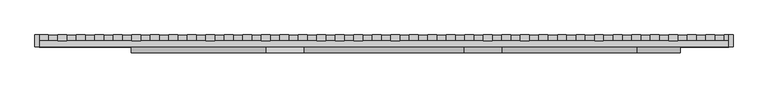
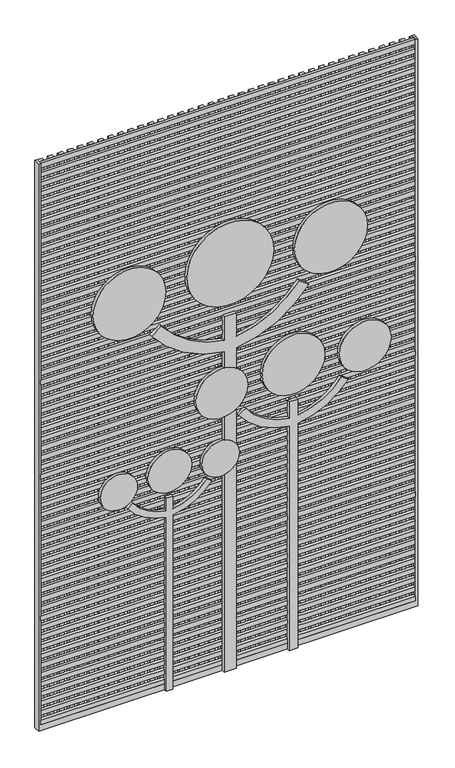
"""IFC4 building model written with IfcOpenShell, lengths in millimetres: proxy geometry, Modelos genéricos - (reduzido) PAINEL CMP (ARAUCÁRIA) - (reduzido) PAINEL CMP (ARAUCÁRIA)."""

from ifc_helpers import new_model, si_unit, point, frame, frame_2d, origin, place, context, project, spatial, polyline, circle_curve, trimmed, segment, composite_curve, outline, extrude, source, transform, mapped, element, save


def generic_models_fbd47416(model_context):
    return source(origin(), model_context, "Body", "SweptSolid", [
        extrude(outline(polyline([(-3085.9835097, -20.0), (-3085.9835097, 0.0), (-775.2251095, 0.0), (-775.2251095, -20.0), (-3085.9835097, -20.0)])), frame((0.0, 0.0, 2254.0784733), z_axis=(0.0, 0.0, 1.0), x_axis=(1.0, 0.0, 0.0)), (0.0, 0.0, 1.0), 30.0),
        extrude(outline(composite_curve([segment(trimmed(circle_curve(frame_2d((2653.9607383, -1930.0)), 268.0), [point((2653.9607383, -1662.0))], [point((2653.9607383, -2198.0))], False, "CARTESIAN"), True, "CONTINUOUS"), segment(trimmed(circle_curve(frame_2d((2653.9607383, -1930.0)), 268.0), [point((2653.9607383, -2198.0))], [point((2653.9607383, -1662.0))], False, "CARTESIAN"), True, "CONTINUOUS")], self_intersect=False)), frame((0.0, -40.0, 0.0), z_axis=(0.0, 1.0, 0.0), x_axis=(0.0, 0.0, 1.0)), (0.0, 0.0, 1.0), 20.0),
        extrude(outline(polyline([(-3085.9835097, -20.0), (-3085.9835097, 0.0), (-775.2251095, 0.0), (-775.2251095, -20.0), (-3085.9835097, -20.0)])), frame((0.0, 0.0, 1638.4604183), z_axis=(0.0, 0.0, 1.0), x_axis=(1.0, 0.0, 0.0)), (0.0, 0.0, 1.0), 30.0),
        extrude(outline(polyline([(-2093.0828076, 0.0), (-2093.0828076, 20.0), (-2063.0828076, 20.0), (-2063.0828076, 0.0), (-2093.0828076, 0.0)])), frame((0.0, 0.0, 37.8534751), z_axis=(0.0, 0.0, 1.0), x_axis=(1.0, 0.0, 0.0)), (0.0, 0.0, 1.0), 3662.1465249),
        extrude(outline(polyline([(-2527.4768647, 0.0), (-2527.4768647, 20.0), (-2497.4768647, 20.0), (-2497.4768647, 0.0), (-2527.4768647, 0.0)])), frame((0.0, 0.0, 37.8534751), z_axis=(0.0, 0.0, 1.0), x_axis=(1.0, 0.0, 0.0)), (0.0, 0.0, 1.0), 3662.1465249),
        extrude(outline(polyline([(-3085.9835097, -20.0), (-3085.9835097, 0.0), (-775.2251095, 0.0), (-775.2251095, -20.0), (-3085.9835097, -20.0)])), frame((0.0, 0.0, 715.0333356), z_axis=(0.0, 0.0, 1.0), x_axis=(1.0, 0.0, 0.0)), (0.0, 0.0, 1.0), 30.0),
        extrude(outline(polyline([(-3085.9835097, -20.0), (-3085.9835097, 0.0), (-775.2251095, 0.0), (-775.2251095, -20.0), (-3085.9835097, -20.0)])), frame((0.0, 0.0, 37.8534751), z_axis=(0.0, 0.0, 1.0), x_axis=(1.0, 0.0, 0.0)), (0.0, 0.0, 1.0), 30.0),
        extrude(outline(polyline([(0.0, -3100.0), (0.0, -760.0), (3700.0, -760.0), (3700.0, -775.2251095), (37.8534751, -775.2251095), (37.8534751, -3085.9835097), (3700.0, -3085.9835097), (3700.0, -3100.0), (0.0, -3100.0)])), frame((0.0, -20.0, 0.0), z_axis=(0.0, 1.0, 0.0), x_axis=(0.0, 0.0, 1.0)), (0.0, 0.0, 1.0), 40.0),
        extrude(outline(polyline([(-3085.9835097, -20.0), (-3085.9835097, 0.0), (-775.2251095, 0.0), (-775.2251095, -20.0), (-3085.9835097, -20.0)])), frame((0.0, 0.0, 1823.1458348), z_axis=(0.0, 0.0, 1.0), x_axis=(1.0, 0.0, 0.0)), (0.0, 0.0, 1.0), 30.0),
        extrude(outline(polyline([(-3085.9835097, -20.0), (-3085.9835097, 0.0), (-775.2251095, 0.0), (-775.2251095, -20.0), (-3085.9835097, -20.0)])), frame((0.0, 0.0, 3115.9437504), z_axis=(0.0, 0.0, 1.0), x_axis=(1.0, 0.0, 0.0)), (0.0, 0.0, 1.0), 30.0),
        extrude(outline(polyline([(-3085.9835097, -20.0), (-3085.9835097, 0.0), (-775.2251095, 0.0), (-775.2251095, -20.0), (-3085.9835097, -20.0)])), frame((0.0, 0.0, 1453.7750017), z_axis=(0.0, 0.0, 1.0), x_axis=(1.0, 0.0, 0.0)), (0.0, 0.0, 1.0), 30.0),
        extrude(outline(polyline([(-3085.9835097, -20.0), (-3085.9835097, 0.0), (-775.2251095, 0.0), (-775.2251095, -20.0), (-3085.9835097, -20.0)])), frame((0.0, 0.0, 838.1569467), z_axis=(0.0, 0.0, 1.0), x_axis=(1.0, 0.0, 0.0)), (0.0, 0.0, 1.0), 30.0),
        extrude(outline(polyline([(-3023.9272158, 0.0), (-3023.9272158, 20.0), (-2993.9272158, 20.0), (-2993.9272158, 0.0), (-3023.9272158, 0.0)])), frame((0.0, 0.0, 37.8534751), z_axis=(0.0, 0.0, 1.0), x_axis=(1.0, 0.0, 0.0)), (0.0, 0.0, 1.0), 3662.1465249),
        extrude(outline(polyline([(-3085.9835097, -20.0), (-3085.9835097, 0.0), (-775.2251095, 0.0), (-775.2251095, -20.0), (-3085.9835097, -20.0)])), frame((0.0, 0.0, 2438.7638899), z_axis=(0.0, 0.0, 1.0), x_axis=(1.0, 0.0, 0.0)), (0.0, 0.0, 1.0), 30.0),
        extrude(outline(polyline([(-3085.9835097, -20.0), (-3085.9835097, 0.0), (-775.2251095, 0.0), (-775.2251095, -20.0), (-3085.9835097, -20.0)])), frame((0.0, 0.0, 1330.6513907), z_axis=(0.0, 0.0, 1.0), x_axis=(1.0, 0.0, 0.0)), (0.0, 0.0, 1.0), 30.0),
        extrude(outline(polyline([(-2341.3079831, 0.0), (-2341.3079831, 20.0), (-2311.3079831, 20.0), (-2311.3079831, 0.0), (-2341.3079831, 0.0)])), frame((0.0, 0.0, 37.8534751), z_axis=(0.0, 0.0, 1.0), x_axis=(1.0, 0.0, 0.0)), (0.0, 0.0, 1.0), 3662.1465249),
        extrude(outline(polyline([(-1596.6324565, 0.0), (-1596.6324565, 20.0), (-1566.6324565, 20.0), (-1566.6324565, 0.0), (-1596.6324565, 0.0)])), frame((0.0, 0.0, 37.8534751), z_axis=(0.0, 0.0, 1.0), x_axis=(1.0, 0.0, 0.0)), (0.0, 0.0, 1.0), 3662.1465249),
        extrude(outline(polyline([(-2031.0265137, 0.0), (-2031.0265137, 20.0), (-2001.0265137, 20.0), (-2001.0265137, 0.0), (-2031.0265137, 0.0)])), frame((0.0, 0.0, 37.8534751), z_axis=(0.0, 0.0, 1.0), x_axis=(1.0, 0.0, 0.0)), (0.0, 0.0, 1.0), 3662.1465249),
        extrude(outline(polyline([(-1472.5198688, 0.0), (-1472.5198688, 20.0), (-1442.5198688, 20.0), (-1442.5198688, 0.0), (-1472.5198688, 0.0)])), frame((0.0, 0.0, 37.8534751), z_axis=(0.0, 0.0, 1.0), x_axis=(1.0, 0.0, 0.0)), (0.0, 0.0, 1.0), 3662.1465249),
        extrude(outline(polyline([(-1224.2946932, 0.0), (-1224.2946932, 20.0), (-1194.2946932, 20.0), (-1194.2946932, 0.0), (-1224.2946932, 0.0)])), frame((0.0, 0.0, 37.8534751), z_axis=(0.0, 0.0, 1.0), x_axis=(1.0, 0.0, 0.0)), (0.0, 0.0, 1.0), 3662.1465249),
        extrude(outline(polyline([(-976.0695177, 0.0), (-976.0695177, 20.0), (-946.0695177, 20.0), (-946.0695177, 0.0), (-976.0695177, 0.0)])), frame((0.0, 0.0, 37.8534751), z_axis=(0.0, 0.0, 1.0), x_axis=(1.0, 0.0, 0.0)), (0.0, 0.0, 1.0), 3662.1465249),
        extrude(outline(polyline([(-3085.9835097, -20.0), (-3085.9835097, 0.0), (-775.2251095, 0.0), (-775.2251095, -20.0), (-3085.9835097, -20.0)])), frame((0.0, 0.0, 160.9770861), z_axis=(0.0, 0.0, 1.0), x_axis=(1.0, 0.0, 0.0)), (0.0, 0.0, 1.0), 30.0),
        extrude(outline(polyline([(-1906.9139259, 0.0), (-1906.9139259, 20.0), (-1876.9139259, 20.0), (-1876.9139259, 0.0), (-1906.9139259, 0.0)])), frame((0.0, 0.0, 37.8534751), z_axis=(0.0, 0.0, 1.0), x_axis=(1.0, 0.0, 0.0)), (0.0, 0.0, 1.0), 3662.1465249),
        extrude(outline(polyline([(-3085.9835097, -20.0), (-3085.9835097, 0.0), (-775.2251095, 0.0), (-775.2251095, -20.0), (-3085.9835097, -20.0)])), frame((0.0, 0.0, 2931.2583339), z_axis=(0.0, 0.0, 1.0), x_axis=(1.0, 0.0, 0.0)), (0.0, 0.0, 1.0), 30.0),
        extrude(outline(polyline([(-2155.1391015, 0.0), (-2155.1391015, 20.0), (-2125.1391015, 20.0), (-2125.1391015, 0.0), (-2155.1391015, 0.0)])), frame((0.0, 0.0, 37.8534751), z_axis=(0.0, 0.0, 1.0), x_axis=(1.0, 0.0, 0.0)), (0.0, 0.0, 1.0), 3662.1465249),
        extrude(outline(polyline([(-2775.7020403, 0.0), (-2775.7020403, 20.0), (-2745.7020403, 20.0), (-2745.7020403, 0.0), (-2775.7020403, 0.0)])), frame((0.0, 0.0, 37.8534751), z_axis=(0.0, 0.0, 1.0), x_axis=(1.0, 0.0, 0.0)), (0.0, 0.0, 1.0), 3662.1465249),
        extrude(outline(polyline([(-3085.9835097, -20.0), (-3085.9835097, 0.0), (-775.2251095, 0.0), (-775.2251095, -20.0), (-3085.9835097, -20.0)])), frame((0.0, 0.0, 3670.0), z_axis=(0.0, 0.0, 1.0), x_axis=(1.0, 0.0, 0.0)), (0.0, 0.0, 1.0), 30.0),
        extrude(outline(polyline([(-2837.7583342, 0.0), (-2837.7583342, 20.0), (-2807.7583342, 20.0), (-2807.7583342, 0.0), (-2837.7583342, 0.0)])), frame((0.0, 0.0, 37.8534751), z_axis=(0.0, 0.0, 1.0), x_axis=(1.0, 0.0, 0.0)), (0.0, 0.0, 1.0), 3662.1465249),
        extrude(outline(polyline([(-3085.9835097, -20.0), (-3085.9835097, 0.0), (-775.2251095, 0.0), (-775.2251095, -20.0), (-3085.9835097, -20.0)])), frame((0.0, 0.0, 1946.2694458), z_axis=(0.0, 0.0, 1.0), x_axis=(1.0, 0.0, 0.0)), (0.0, 0.0, 1.0), 30.0),
        extrude(outline(polyline([(-3085.9835097, -20.0), (-3085.9835097, 0.0), (-775.2251095, 0.0), (-775.2251095, -20.0), (-3085.9835097, -20.0)])), frame((0.0, 0.0, 2623.4493064), z_axis=(0.0, 0.0, 1.0), x_axis=(1.0, 0.0, 0.0)), (0.0, 0.0, 1.0), 30.0),
        extrude(outline(polyline([(-3085.9835097, -20.0), (-3085.9835097, 0.0), (-775.2251095, 0.0), (-775.2251095, -20.0), (-3085.9835097, -20.0)])), frame((0.0, 0.0, 1761.5840293), z_axis=(0.0, 0.0, 1.0), x_axis=(1.0, 0.0, 0.0)), (0.0, 0.0, 1.0), 30.0),
        extrude(outline(composite_curve([segment(trimmed(circle_curve(frame_2d((1826.0455944, -1981.666724)), 160.0), [point((1826.0455944, -1821.666724))], [point((1826.0455944, -2141.666724))], False, "CARTESIAN"), True, "CONTINUOUS"), segment(trimmed(circle_curve(frame_2d((1826.0455944, -1981.666724)), 160.0), [point((1826.0455944, -2141.666724))], [point((1826.0455944, -1821.666724))], False, "CARTESIAN"), True, "CONTINUOUS")], self_intersect=False)), frame((0.0, -40.0, 0.0), z_axis=(0.0, 1.0, 0.0), x_axis=(0.0, 0.0, 1.0)), (0.0, 0.0, 1.0), 20.0),
        extrude(outline(polyline([(-3085.9835097, -20.0), (-3085.9835097, 0.0), (-775.2251095, 0.0), (-775.2251095, -20.0), (-3085.9835097, -20.0)])), frame((0.0, 0.0, 3485.3145835), z_axis=(0.0, 0.0, 1.0), x_axis=(1.0, 0.0, 0.0)), (0.0, 0.0, 1.0), 30.0),
        extrude(outline(polyline([(-3085.9835097, -20.0), (-3085.9835097, 0.0), (-775.2251095, 0.0), (-775.2251095, -20.0), (-3085.9835097, -20.0)])), frame((0.0, 0.0, 1576.8986127), z_axis=(0.0, 0.0, 1.0), x_axis=(1.0, 0.0, 0.0)), (0.0, 0.0, 1.0), 30.0),
        extrude(outline(polyline([(-3085.9835097, -20.0), (-3085.9835097, 0.0), (-775.2251095, 0.0), (-775.2251095, -20.0), (-3085.9835097, -20.0)])), frame((0.0, 0.0, 2192.5166678), z_axis=(0.0, 0.0, 1.0), x_axis=(1.0, 0.0, 0.0)), (0.0, 0.0, 1.0), 30.0),
        extrude(outline(composite_curve([segment(trimmed(circle_curve(frame_2d((1401.9850261, -1989.2336121)), 115.0), [point((1401.9850261, -2104.2336121))], [point((1401.9850261, -1874.2336121))], False, "CARTESIAN"), True, "CONTINUOUS"), segment(trimmed(circle_curve(frame_2d((1401.9850261, -1989.2336121)), 115.0), [point((1401.9850261, -1874.2336121))], [point((1401.9850261, -2104.2336121))], False, "CARTESIAN"), True, "CONTINUOUS")], self_intersect=False)), frame((0.0, -40.0, 0.0), z_axis=(0.0, 1.0, 0.0), x_axis=(0.0, 0.0, 1.0)), (0.0, 0.0, 1.0), 20.0),
        extrude(outline(composite_curve([segment(polyline([(0.0, -1967.4495169), (0.0, -1890.5984973), (1342.857079, -1890.5984973)]), True, "CONTINUOUS"), segment(trimmed(circle_curve(frame_2d((1401.9850261, -1989.2336121)), 115.0), [point((1342.857079, -1890.5984973))], [point((1289.0671214, -1967.4495169))], True, "CARTESIAN"), True, "CONTINUOUS"), segment(polyline([(1289.0671214, -1967.4495169), (0.0, -1967.4495169)]), True, "CONTINUOUS")], self_intersect=False)), frame((0.0, -40.0, 0.0), z_axis=(0.0, 1.0, 0.0), x_axis=(0.0, 0.0, 1.0)), (0.0, 0.0, 1.0), 20.0),
        extrude(outline(polyline([(-3085.9835097, -20.0), (-3085.9835097, 0.0), (-775.2251095, 0.0), (-775.2251095, -20.0), (-3085.9835097, -20.0)])), frame((0.0, 0.0, 222.5388916), z_axis=(0.0, 0.0, 1.0), x_axis=(1.0, 0.0, 0.0)), (0.0, 0.0, 1.0), 30.0),
        extrude(outline(composite_curve([segment(trimmed(circle_curve(frame_2d((1826.0455944, -1096.4852417)), 160.0), [point((1826.0455944, -1256.4852417))], [point((1826.0455944, -936.4852417))], False, "CARTESIAN"), True, "CONTINUOUS"), segment(trimmed(circle_curve(frame_2d((1826.0455944, -1096.4852417)), 160.0), [point((1826.0455944, -936.4852417))], [point((1826.0455944, -1256.4852417))], False, "CARTESIAN"), True, "CONTINUOUS")], self_intersect=False)), frame((0.0, -40.0, 0.0), z_axis=(0.0, 1.0, 0.0), x_axis=(0.0, 0.0, 1.0)), (0.0, 0.0, 1.0), 20.0),
        extrude(outline(polyline([(-3085.9835097, -20.0), (-3085.9835097, 0.0), (-775.2251095, 0.0), (-775.2251095, -20.0), (-3085.9835097, -20.0)])), frame((0.0, 0.0, 284.1006971), z_axis=(0.0, 0.0, 1.0), x_axis=(1.0, 0.0, 0.0)), (0.0, 0.0, 1.0), 30.0),
        extrude(outline(polyline([(-3085.9835097, -20.0), (-3085.9835097, 0.0), (-775.2251095, 0.0), (-775.2251095, -20.0), (-3085.9835097, -20.0)])), frame((0.0, 0.0, 1515.3368072), z_axis=(0.0, 0.0, 1.0), x_axis=(1.0, 0.0, 0.0)), (0.0, 0.0, 1.0), 30.0),
        extrude(outline(composite_curve([segment(polyline([(1666.6784992, -1967.4495169), (1514.9029308, -1967.4495169)]), True, "CONTINUOUS"), segment(trimmed(circle_curve(frame_2d((1401.9850261, -1989.2336121)), 115.0), [point((1514.9029308, -1967.4495169))], [point((1461.1129732, -1890.5984973))], True, "CARTESIAN"), True, "CONTINUOUS"), segment(polyline([(1461.1129732, -1890.5984973), (1694.4911263, -1890.5984973)]), True, "CONTINUOUS"), segment(trimmed(circle_curve(frame_2d((1826.0455944, -1981.666724)), 160.0), [point((1694.4911263, -1890.5984973))], [point((1666.6784992, -1967.4495169))], True, "CARTESIAN"), True, "CONTINUOUS")], self_intersect=False)), frame((0.0, -40.0, 0.0), z_axis=(0.0, 1.0, 0.0), x_axis=(0.0, 0.0, 1.0)), (0.0, 0.0, 1.0), 20.0),
        extrude(outline(composite_curve([segment(trimmed(circle_curve(frame_2d((2607.7901404, -1308.0644839)), 225.0), [point((2607.7901404, -1533.0644839))], [point((2607.7901404, -1083.0644839))], False, "CARTESIAN"), True, "CONTINUOUS"), segment(trimmed(circle_curve(frame_2d((2607.7901404, -1308.0644839)), 225.0), [point((2607.7901404, -1083.0644839))], [point((2607.7901404, -1533.0644839))], False, "CARTESIAN"), True, "CONTINUOUS")], self_intersect=False)), frame((0.0, -40.0, 0.0), z_axis=(0.0, 1.0, 0.0), x_axis=(0.0, 0.0, 1.0)), (0.0, 0.0, 1.0), 20.0),
        extrude(outline(polyline([(-2961.8709219, 0.0), (-2961.8709219, 20.0), (-2931.8709219, 20.0), (-2931.8709219, 0.0), (-2961.8709219, 0.0)])), frame((0.0, 0.0, 37.8534751), z_axis=(0.0, 0.0, 1.0), x_axis=(1.0, 0.0, 0.0)), (0.0, 0.0, 1.0), 3662.1465249),
        extrude(outline(polyline([(-1348.407281, 0.0), (-1348.407281, 20.0), (-1318.407281, 20.0), (-1318.407281, 0.0), (-1348.407281, 0.0)])), frame((0.0, 0.0, 37.8534751), z_axis=(0.0, 0.0, 1.0), x_axis=(1.0, 0.0, 0.0)), (0.0, 0.0, 1.0), 3662.1465249),
        extrude(outline(polyline([(-1782.8013382, 0.0), (-1782.8013382, 20.0), (-1752.8013382, 20.0), (-1752.8013382, 0.0), (-1782.8013382, 0.0)])), frame((0.0, 0.0, 37.8534751), z_axis=(0.0, 0.0, 1.0), x_axis=(1.0, 0.0, 0.0)), (0.0, 0.0, 1.0), 3662.1465249),
        extrude(outline(polyline([(-789.9006361, 0.0), (-789.9006361, 20.0), (-759.9006361, 20.0), (-759.9006361, 0.0), (-789.9006361, 0.0)])), frame((0.0, 0.0, 37.8534751), z_axis=(0.0, 0.0, 1.0), x_axis=(1.0, 0.0, 0.0)), (0.0, 0.0, 1.0), 3662.1465249),
        extrude(outline(polyline([(-3085.9835097, -20.0), (-3085.9835097, 0.0), (-775.2251095, 0.0), (-775.2251095, -20.0), (-3085.9835097, -20.0)])), frame((0.0, 0.0, 3054.3819449), z_axis=(0.0, 0.0, 1.0), x_axis=(1.0, 0.0, 0.0)), (0.0, 0.0, 1.0), 30.0),
        extrude(outline(polyline([(-1844.857632, 0.0), (-1844.857632, 20.0), (-1814.857632, 20.0), (-1814.857632, 0.0), (-1844.857632, 0.0)])), frame((0.0, 0.0, 37.8534751), z_axis=(0.0, 0.0, 1.0), x_axis=(1.0, 0.0, 0.0)), (0.0, 0.0, 1.0), 3662.1465249),
        extrude(outline(polyline([(-1534.5761626, 0.0), (-1534.5761626, 20.0), (-1504.5761626, 20.0), (-1504.5761626, 0.0), (-1534.5761626, 0.0)])), frame((0.0, 0.0, 37.8534751), z_axis=(0.0, 0.0, 1.0), x_axis=(1.0, 0.0, 0.0)), (0.0, 0.0, 1.0), 3662.1465249),
        extrude(outline(polyline([(-3085.9835097, -20.0), (-3085.9835097, 0.0), (-775.2251095, 0.0), (-775.2251095, -20.0), (-3085.9835097, -20.0)])), frame((0.0, 0.0, 1269.0895852), z_axis=(0.0, 0.0, 1.0), x_axis=(1.0, 0.0, 0.0)), (0.0, 0.0, 1.0), 30.0),
        extrude(outline(polyline([(-3085.9835097, -20.0), (-3085.9835097, 0.0), (-775.2251095, 0.0), (-775.2251095, -20.0), (-3085.9835097, -20.0)])), frame((0.0, 0.0, 2007.8312513), z_axis=(0.0, 0.0, 1.0), x_axis=(1.0, 0.0, 0.0)), (0.0, 0.0, 1.0), 30.0),
        extrude(outline(polyline([(-3085.9835097, -20.0), (-3085.9835097, 0.0), (-775.2251095, 0.0), (-775.2251095, -20.0), (-3085.9835097, -20.0)])), frame((0.0, 0.0, 3362.1909725), z_axis=(0.0, 0.0, 1.0), x_axis=(1.0, 0.0, 0.0)), (0.0, 0.0, 1.0), 30.0),
        extrude(outline(polyline([(-3085.9835097, -20.0), (-3085.9835097, 0.0), (-775.2251095, 0.0), (-775.2251095, -20.0), (-3085.9835097, -20.0)])), frame((0.0, 0.0, 2500.3256954), z_axis=(0.0, 0.0, 1.0), x_axis=(1.0, 0.0, 0.0)), (0.0, 0.0, 1.0), 30.0),
        extrude(outline(polyline([(-1720.7450443, 0.0), (-1720.7450443, 20.0), (-1690.7450443, 20.0), (-1690.7450443, 0.0), (-1720.7450443, 0.0)])), frame((0.0, 0.0, 37.8534751), z_axis=(0.0, 0.0, 1.0), x_axis=(1.0, 0.0, 0.0)), (0.0, 0.0, 1.0), 3662.1465249),
        extrude(outline(polyline([(-3085.9835097, 0.0), (-3085.9835097, 20.0), (-3055.9835097, 20.0), (-3055.9835097, 0.0), (-3085.9835097, 0.0)])), frame((0.0, 0.0, 37.8534751), z_axis=(0.0, 0.0, 1.0), x_axis=(1.0, 0.0, 0.0)), (0.0, 0.0, 1.0), 3662.1465249),
        extrude(outline(polyline([(-3085.9835097, -20.0), (-3085.9835097, 0.0), (-775.2251095, 0.0), (-775.2251095, -20.0), (-3085.9835097, -20.0)])), frame((0.0, 0.0, 1207.5277797), z_axis=(0.0, 0.0, 1.0), x_axis=(1.0, 0.0, 0.0)), (0.0, 0.0, 1.0), 30.0),
        extrude(outline(composite_curve([segment(trimmed(circle_curve(frame_2d((2607.7901404, -2551.9355161)), 225.0), [point((2607.7901404, -2326.9355161))], [point((2607.7901404, -2776.9355161))], False, "CARTESIAN"), True, "CONTINUOUS"), segment(trimmed(circle_curve(frame_2d((2607.7901404, -2551.9355161)), 225.0), [point((2607.7901404, -2776.9355161))], [point((2607.7901404, -2326.9355161))], False, "CARTESIAN"), True, "CONTINUOUS")], self_intersect=False)), frame((0.0, -40.0, 0.0), z_axis=(0.0, 1.0, 0.0), x_axis=(0.0, 0.0, 1.0)), (0.0, 0.0, 1.0), 20.0),
        extrude(outline(polyline([(-1410.4635749, 0.0), (-1410.4635749, 20.0), (-1380.4635749, 20.0), (-1380.4635749, 0.0), (-1410.4635749, 0.0)])), frame((0.0, 0.0, 37.8534751), z_axis=(0.0, 0.0, 1.0), x_axis=(1.0, 0.0, 0.0)), (0.0, 0.0, 1.0), 3662.1465249),
        extrude(outline(polyline([(-3085.9835097, -20.0), (-3085.9835097, 0.0), (-775.2251095, 0.0), (-775.2251095, -20.0), (-3085.9835097, -20.0)])), frame((0.0, 0.0, 1145.9659742), z_axis=(0.0, 0.0, 1.0), x_axis=(1.0, 0.0, 0.0)), (0.0, 0.0, 1.0), 30.0),
        extrude(outline(polyline([(-3085.9835097, -20.0), (-3085.9835097, 0.0), (-775.2251095, 0.0), (-775.2251095, -20.0), (-3085.9835097, -20.0)])), frame((0.0, 0.0, 1884.7076403), z_axis=(0.0, 0.0, 1.0), x_axis=(1.0, 0.0, 0.0)), (0.0, 0.0, 1.0), 30.0),
        extrude(outline(polyline([(-3085.9835097, -20.0), (-3085.9835097, 0.0), (-775.2251095, 0.0), (-775.2251095, -20.0), (-3085.9835097, -20.0)])), frame((0.0, 0.0, 2315.6402788), z_axis=(0.0, 0.0, 1.0), x_axis=(1.0, 0.0, 0.0)), (0.0, 0.0, 1.0), 30.0),
        extrude(outline(polyline([(-1968.9702198, 0.0), (-1968.9702198, 20.0), (-1938.9702198, 20.0), (-1938.9702198, 0.0), (-1968.9702198, 0.0)])), frame((0.0, 0.0, 37.8534751), z_axis=(0.0, 0.0, 1.0), x_axis=(1.0, 0.0, 0.0)), (0.0, 0.0, 1.0), 3662.1465249),
        extrude(outline(polyline([(-3085.9835097, -20.0), (-3085.9835097, 0.0), (-775.2251095, 0.0), (-775.2251095, -20.0), (-3085.9835097, -20.0)])), frame((0.0, 0.0, 2377.2020843), z_axis=(0.0, 0.0, 1.0), x_axis=(1.0, 0.0, 0.0)), (0.0, 0.0, 1.0), 30.0),
        extrude(outline(polyline([(-2279.2516892, 0.0), (-2279.2516892, 20.0), (-2249.2516892, 20.0), (-2249.2516892, 0.0), (-2279.2516892, 0.0)])), frame((0.0, 0.0, 37.8534751), z_axis=(0.0, 0.0, 1.0), x_axis=(1.0, 0.0, 0.0)), (0.0, 0.0, 1.0), 3662.1465249),
        extrude(outline(composite_curve([segment(trimmed(circle_curve(frame_2d((1858.6645913, -1539.0759829)), 193.0), [point((1858.6645913, -1346.0759829))], [point((1858.6645913, -1732.0759829))], False, "CARTESIAN"), True, "CONTINUOUS"), segment(trimmed(circle_curve(frame_2d((1858.6645913, -1539.0759829)), 193.0), [point((1858.6645913, -1732.0759829))], [point((1858.6645913, -1346.0759829))], False, "CARTESIAN"), True, "CONTINUOUS")], self_intersect=False)), frame((0.0, -40.0, 0.0), z_axis=(0.0, 1.0, 0.0), x_axis=(0.0, 0.0, 1.0)), (0.0, 0.0, 1.0), 20.0),
        extrude(outline(polyline([(-2589.5331586, 0.0), (-2589.5331586, 20.0), (-2559.5331586, 20.0), (-2559.5331586, 0.0), (-2589.5331586, 0.0)])), frame((0.0, 0.0, 37.8534751), z_axis=(0.0, 0.0, 1.0), x_axis=(1.0, 0.0, 0.0)), (0.0, 0.0, 1.0), 3662.1465249),
        extrude(outline(polyline([(-3085.9835097, -20.0), (-3085.9835097, 0.0), (-775.2251095, 0.0), (-775.2251095, -20.0), (-3085.9835097, -20.0)])), frame((0.0, 0.0, 1700.0222238), z_axis=(0.0, 0.0, 1.0), x_axis=(1.0, 0.0, 0.0)), (0.0, 0.0, 1.0), 30.0),
        extrude(outline(polyline([(-1658.6887504, 0.0), (-1658.6887504, 20.0), (-1628.6887504, 20.0), (-1628.6887504, 0.0), (-1658.6887504, 0.0)])), frame((0.0, 0.0, 37.8534751), z_axis=(0.0, 0.0, 1.0), x_axis=(1.0, 0.0, 0.0)), (0.0, 0.0, 1.0), 3662.1465249),
        extrude(outline(polyline([(-1038.1258116, 0.0), (-1038.1258116, 20.0), (-1008.1258116, 20.0), (-1008.1258116, 0.0), (-1038.1258116, 0.0)])), frame((0.0, 0.0, 37.8534751), z_axis=(0.0, 0.0, 1.0), x_axis=(1.0, 0.0, 0.0)), (0.0, 0.0, 1.0), 3662.1465249),
        extrude(outline(polyline([(-3085.9835097, -20.0), (-3085.9835097, 0.0), (-775.2251095, 0.0), (-775.2251095, -20.0), (-3085.9835097, -20.0)])), frame((0.0, 0.0, 1022.8423632), z_axis=(0.0, 0.0, 1.0), x_axis=(1.0, 0.0, 0.0)), (0.0, 0.0, 1.0), 30.0),
        extrude(outline(polyline([(-3085.9835097, -20.0), (-3085.9835097, 0.0), (-775.2251095, 0.0), (-775.2251095, -20.0), (-3085.9835097, -20.0)])), frame((0.0, 0.0, 591.9097246), z_axis=(0.0, 0.0, 1.0), x_axis=(1.0, 0.0, 0.0)), (0.0, 0.0, 1.0), 30.0),
        extrude(outline(polyline([(-2217.1953953, 0.0), (-2217.1953953, 20.0), (-2187.1953953, 20.0), (-2187.1953953, 0.0), (-2217.1953953, 0.0)])), frame((0.0, 0.0, 37.8534751), z_axis=(0.0, 0.0, 1.0), x_axis=(1.0, 0.0, 0.0)), (0.0, 0.0, 1.0), 3662.1465249),
        extrude(outline(polyline([(-3085.9835097, -20.0), (-3085.9835097, 0.0), (-775.2251095, 0.0), (-775.2251095, -20.0), (-3085.9835097, -20.0)])), frame((0.0, 0.0, 3300.629167), z_axis=(0.0, 0.0, 1.0), x_axis=(1.0, 0.0, 0.0)), (0.0, 0.0, 1.0), 30.0),
        extrude(outline(polyline([(-3085.9835097, -20.0), (-3085.9835097, 0.0), (-775.2251095, 0.0), (-775.2251095, -20.0), (-3085.9835097, -20.0)])), frame((0.0, 0.0, 1392.2131962), z_axis=(0.0, 0.0, 1.0), x_axis=(1.0, 0.0, 0.0)), (0.0, 0.0, 1.0), 30.0),
        extrude(outline(polyline([(-3085.9835097, -20.0), (-3085.9835097, 0.0), (-775.2251095, 0.0), (-775.2251095, -20.0), (-3085.9835097, -20.0)])), frame((0.0, 0.0, 3423.752778), z_axis=(0.0, 0.0, 1.0), x_axis=(1.0, 0.0, 0.0)), (0.0, 0.0, 1.0), 30.0),
        extrude(outline(polyline([(-3085.9835097, -20.0), (-3085.9835097, 0.0), (-775.2251095, 0.0), (-775.2251095, -20.0), (-3085.9835097, -20.0)])), frame((0.0, 0.0, 3177.5055559), z_axis=(0.0, 0.0, 1.0), x_axis=(1.0, 0.0, 0.0)), (0.0, 0.0, 1.0), 30.0),
        extrude(outline(composite_curve([segment(polyline([(0.0, -2323.6616077), (0.0, -2282.5006765), (1137.9458337, -2282.5006765)]), True, "CONTINUOUS"), segment(trimmed(circle_curve(frame_2d((1484.9273094, -2323.4714186)), 349.3919664), [point((1137.9458337, -2282.5006765))], [point((1275.9548682, -2043.462017))], False, "CARTESIAN"), True, "CONTINUOUS"), segment(polyline([(1275.9548682, -2043.462017), (1299.8789948, -2075.5187817)]), True, "CONTINUOUS"), segment(trimmed(circle_curve(frame_2d((1484.9273094, -2323.4714186)), 309.3919664), [point((1299.8789948, -2075.5187817))], [point((1178.1830928, -2283.0811421))], True, "CARTESIAN"), True, "CONTINUOUS"), segment(polyline([(1178.1830928, -2283.0811421), (1259.92126, -2283.0811421), (1259.92126, -2323.0811421), (1178.1830928, -2323.0811421)]), True, "CONTINUOUS"), segment(trimmed(circle_curve(frame_2d((1484.9273094, -2282.6908657)), 309.3919664), [point((1178.1830928, -2323.0811421))], [point((1299.8789948, -2530.6435026))], True, "CARTESIAN"), True, "CONTINUOUS"), segment(polyline([(1299.8789948, -2530.6435026), (1275.9548682, -2562.7002673)]), True, "CONTINUOUS"), segment(trimmed(circle_curve(frame_2d((1484.9273094, -2282.6908657)), 349.3919664), [point((1275.9548682, -2562.7002673))], [point((1137.9458337, -2323.6616077))], False, "CARTESIAN"), True, "CONTINUOUS"), segment(polyline([(1137.9458337, -2323.6616077), (0.0, -2323.6616077)]), True, "CONTINUOUS")], self_intersect=False)), frame((0.0, -40.0, 0.0), z_axis=(0.0, 1.0, 0.0), x_axis=(0.0, 0.0, 1.0)), (0.0, 0.0, 1.0), 20.0),
        extrude(outline(polyline([(-3085.9835097, -20.0), (-3085.9835097, 0.0), (-775.2251095, 0.0), (-775.2251095, -20.0), (-3085.9835097, -20.0)])), frame((0.0, 0.0, 530.3479191), z_axis=(0.0, 0.0, 1.0), x_axis=(1.0, 0.0, 0.0)), (0.0, 0.0, 1.0), 30.0),
        extrude(outline(polyline([(-1100.1821055, 0.0), (-1100.1821055, 20.0), (-1070.1821055, 20.0), (-1070.1821055, 0.0), (-1100.1821055, 0.0)])), frame((0.0, 0.0, 37.8534751), z_axis=(0.0, 0.0, 1.0), x_axis=(1.0, 0.0, 0.0)), (0.0, 0.0, 1.0), 3662.1465249),
        extrude(outline(polyline([(-3085.9835097, -20.0), (-3085.9835097, 0.0), (-775.2251095, 0.0), (-775.2251095, -20.0), (-3085.9835097, -20.0)])), frame((0.0, 0.0, 961.2805577), z_axis=(0.0, 0.0, 1.0), x_axis=(1.0, 0.0, 0.0)), (0.0, 0.0, 1.0), 30.0),
        extrude(outline(polyline([(-3085.9835097, -20.0), (-3085.9835097, 0.0), (-775.2251095, 0.0), (-775.2251095, -20.0), (-3085.9835097, -20.0)])), frame((0.0, 0.0, 407.2243081), z_axis=(0.0, 0.0, 1.0), x_axis=(1.0, 0.0, 0.0)), (0.0, 0.0, 1.0), 30.0),
        extrude(outline(composite_curve([segment(polyline([(0.0, -1565.7789148), (0.0, -1512.3730509), (1465.211435, -1512.3730509)]), True, "CONTINUOUS"), segment(trimmed(circle_curve(frame_2d((1915.4161541, -1565.5321464)), 453.3323048), [point((1465.211435, -1512.3730509))], [point((1644.2766674, -1202.2229706))], False, "CARTESIAN"), True, "CONTINUOUS"), segment(polyline([(1644.2766674, -1202.2229706), (1675.3179635, -1243.8162767)]), True, "CONTINUOUS"), segment(trimmed(circle_curve(frame_2d((1915.4161541, -1565.5321464)), 401.4327366), [point((1675.3179635, -1243.8162767))], [point((1517.4188443, -1513.1261988))], True, "CARTESIAN"), True, "CONTINUOUS"), segment(polyline([(1517.4188443, -1513.1261988), (1623.4732339, -1513.1261988), (1623.4732339, -1565.025767), (1517.4188443, -1565.025767)]), True, "CONTINUOUS"), segment(trimmed(circle_curve(frame_2d((1915.4161541, -1512.6198193)), 401.4327366), [point((1517.4188443, -1565.025767))], [point((1675.3179635, -1834.335689))], True, "CARTESIAN"), True, "CONTINUOUS"), segment(polyline([(1675.3179635, -1834.335689), (1644.2766674, -1875.9289952)]), True, "CONTINUOUS"), segment(trimmed(circle_curve(frame_2d((1915.4161541, -1512.6198193)), 453.3323048), [point((1644.2766674, -1875.9289952))], [point((1465.211435, -1565.7789148))], False, "CARTESIAN"), True, "CONTINUOUS"), segment(polyline([(1465.211435, -1565.7789148), (0.0, -1565.7789148)]), True, "CONTINUOUS")], self_intersect=False)), frame((0.0, -40.0, 0.0), z_axis=(0.0, 1.0, 0.0), x_axis=(0.0, 0.0, 1.0)), (0.0, 0.0, 1.0), 20.0),
        extrude(outline(polyline([(-3085.9835097, -20.0), (-3085.9835097, 0.0), (-775.2251095, 0.0), (-775.2251095, -20.0), (-3085.9835097, -20.0)])), frame((0.0, 0.0, 468.7861136), z_axis=(0.0, 0.0, 1.0), x_axis=(1.0, 0.0, 0.0)), (0.0, 0.0, 1.0), 30.0),
        extrude(outline(polyline([(-3085.9835097, -20.0), (-3085.9835097, 0.0), (-775.2251095, 0.0), (-775.2251095, -20.0), (-3085.9835097, -20.0)])), frame((0.0, 0.0, 3546.876389), z_axis=(0.0, 0.0, 1.0), x_axis=(1.0, 0.0, 0.0)), (0.0, 0.0, 1.0), 30.0),
        extrude(outline(polyline([(-3085.9835097, -20.0), (-3085.9835097, 0.0), (-775.2251095, 0.0), (-775.2251095, -20.0), (-3085.9835097, -20.0)])), frame((0.0, 0.0, 776.5951412), z_axis=(0.0, 0.0, 1.0), x_axis=(1.0, 0.0, 0.0)), (0.0, 0.0, 1.0), 30.0),
        extrude(outline(polyline([(-3085.9835097, -20.0), (-3085.9835097, 0.0), (-775.2251095, 0.0), (-775.2251095, -20.0), (-3085.9835097, -20.0)])), frame((0.0, 0.0, 3239.0673614), z_axis=(0.0, 0.0, 1.0), x_axis=(1.0, 0.0, 0.0)), (0.0, 0.0, 1.0), 30.0),
        extrude(outline(composite_curve([segment(trimmed(circle_curve(frame_2d((1401.9850261, -2616.9286722)), 115.0), [point((1401.9850261, -2501.9286722))], [point((1401.9850261, -2731.9286722))], False, "CARTESIAN"), True, "CONTINUOUS"), segment(trimmed(circle_curve(frame_2d((1401.9850261, -2616.9286722)), 115.0), [point((1401.9850261, -2731.9286722))], [point((1401.9850261, -2501.9286722))], False, "CARTESIAN"), True, "CONTINUOUS")], self_intersect=False)), frame((0.0, -40.0, 0.0), z_axis=(0.0, 1.0, 0.0), x_axis=(0.0, 0.0, 1.0)), (0.0, 0.0, 1.0), 20.0),
        extrude(outline(polyline([(-914.0132238, 0.0), (-914.0132238, 20.0), (-884.0132238, 20.0), (-884.0132238, 0.0), (-914.0132238, 0.0)])), frame((0.0, 0.0, 37.8534751), z_axis=(0.0, 0.0, 1.0), x_axis=(1.0, 0.0, 0.0)), (0.0, 0.0, 1.0), 3662.1465249),
        extrude(outline(polyline([(-3085.9835097, -20.0), (-3085.9835097, 0.0), (-775.2251095, 0.0), (-775.2251095, -20.0), (-3085.9835097, -20.0)])), frame((0.0, 0.0, 2561.8875009), z_axis=(0.0, 0.0, 1.0), x_axis=(1.0, 0.0, 0.0)), (0.0, 0.0, 1.0), 30.0),
        extrude(outline(composite_curve([segment(trimmed(circle_curve(frame_2d((2739.6655212, -1967.0944173)), 652.3450299), [point((2091.821086, -1890.5984973))], [point((2349.4958936, -1444.2926388))], False, "CARTESIAN"), True, "CONTINUOUS"), segment(polyline([(2349.4958936, -1444.2926388), (2394.1643078, -1504.145392)]), True, "CONTINUOUS"), segment(trimmed(circle_curve(frame_2d((2739.6655212, -1967.0944173)), 577.6615692), [point((2394.1643078, -1504.145392))], [point((2166.94753, -1891.6822767))], True, "CARTESIAN"), True, "CONTINUOUS"), segment(polyline([(2166.94753, -1891.6822767), (2319.5597599, -1891.6822767), (2319.5597599, -1966.3657375), (2166.94753, -1966.3657375)]), True, "CONTINUOUS"), segment(trimmed(circle_curve(frame_2d((2739.6655212, -1890.9535969)), 577.6615692), [point((2166.94753, -1966.3657375))], [point((2394.1643078, -2353.9026222))], True, "CARTESIAN"), True, "CONTINUOUS"), segment(polyline([(2394.1643078, -2353.9026222), (2349.4958936, -2413.7553754)]), True, "CONTINUOUS"), segment(trimmed(circle_curve(frame_2d((2739.6655212, -1890.9535969)), 652.3450299), [point((2349.4958936, -2413.7553754))], [point((2091.821086, -1967.4495169))], False, "CARTESIAN"), True, "CONTINUOUS"), segment(polyline([(2091.821086, -1967.4495169), (1985.4126895, -1967.4495169)]), True, "CONTINUOUS"), segment(trimmed(circle_curve(frame_2d((1826.0455944, -1981.666724)), 160.0), [point((1985.4126895, -1967.4495169))], [point((1957.6000624, -1890.5984973))], True, "CARTESIAN"), True, "CONTINUOUS"), segment(polyline([(1957.6000624, -1890.5984973), (2091.821086, -1890.5984973)]), True, "CONTINUOUS")], self_intersect=False)), frame((0.0, -40.0, 0.0), z_axis=(0.0, 1.0, 0.0), x_axis=(0.0, 0.0, 1.0)), (0.0, 0.0, 1.0), 20.0),
        extrude(outline(polyline([(-3085.9835097, -20.0), (-3085.9835097, 0.0), (-775.2251095, 0.0), (-775.2251095, -20.0), (-3085.9835097, -20.0)])), frame((0.0, 0.0, 3608.4381945), z_axis=(0.0, 0.0, 1.0), x_axis=(1.0, 0.0, 0.0)), (0.0, 0.0, 1.0), 30.0),
        extrude(outline(polyline([(-851.9569299, 0.0), (-851.9569299, 20.0), (-821.9569299, 20.0), (-821.9569299, 0.0), (-851.9569299, 0.0)])), frame((0.0, 0.0, 37.8534751), z_axis=(0.0, 0.0, 1.0), x_axis=(1.0, 0.0, 0.0)), (0.0, 0.0, 1.0), 3662.1465249),
        extrude(outline(polyline([(-2465.4205709, 0.0), (-2465.4205709, 20.0), (-2435.4205709, 20.0), (-2435.4205709, 0.0), (-2465.4205709, 0.0)])), frame((0.0, 0.0, 37.8534751), z_axis=(0.0, 0.0, 1.0), x_axis=(1.0, 0.0, 0.0)), (0.0, 0.0, 1.0), 3662.1465249),
        extrude(outline(polyline([(-1286.3509871, 0.0), (-1286.3509871, 20.0), (-1256.3509871, 20.0), (-1256.3509871, 0.0), (-1286.3509871, 0.0)])), frame((0.0, 0.0, 37.8534751), z_axis=(0.0, 0.0, 1.0), x_axis=(1.0, 0.0, 0.0)), (0.0, 0.0, 1.0), 3662.1465249),
        extrude(outline(polyline([(-2713.6457464, 0.0), (-2713.6457464, 20.0), (-2683.6457464, 20.0), (-2683.6457464, 0.0), (-2713.6457464, 0.0)])), frame((0.0, 0.0, 37.8534751), z_axis=(0.0, 0.0, 1.0), x_axis=(1.0, 0.0, 0.0)), (0.0, 0.0, 1.0), 3662.1465249),
        extrude(outline(polyline([(-3085.9835097, -20.0), (-3085.9835097, 0.0), (-775.2251095, 0.0), (-775.2251095, -20.0), (-3085.9835097, -20.0)])), frame((0.0, 0.0, 2746.5729174), z_axis=(0.0, 0.0, 1.0), x_axis=(1.0, 0.0, 0.0)), (0.0, 0.0, 1.0), 30.0),
        extrude(outline(polyline([(-3085.9835097, -20.0), (-3085.9835097, 0.0), (-775.2251095, 0.0), (-775.2251095, -20.0), (-3085.9835097, -20.0)])), frame((0.0, 0.0, 899.7187522), z_axis=(0.0, 0.0, 1.0), x_axis=(1.0, 0.0, 0.0)), (0.0, 0.0, 1.0), 30.0),
        extrude(outline(polyline([(-3085.9835097, -20.0), (-3085.9835097, 0.0), (-775.2251095, 0.0), (-775.2251095, -20.0), (-3085.9835097, -20.0)])), frame((0.0, 0.0, 99.4152806), z_axis=(0.0, 0.0, 1.0), x_axis=(1.0, 0.0, 0.0)), (0.0, 0.0, 1.0), 30.0),
        extrude(outline(polyline([(-3085.9835097, -20.0), (-3085.9835097, 0.0), (-775.2251095, 0.0), (-775.2251095, -20.0), (-3085.9835097, -20.0)])), frame((0.0, 0.0, 1084.4041687), z_axis=(0.0, 0.0, 1.0), x_axis=(1.0, 0.0, 0.0)), (0.0, 0.0, 1.0), 30.0),
        extrude(outline(composite_curve([segment(trimmed(circle_curve(frame_2d((1429.1438065, -2303.0811421)), 135.0), [point((1429.1438065, -2168.0811421))], [point((1429.1438065, -2438.0811421))], False, "CARTESIAN"), True, "CONTINUOUS"), segment(trimmed(circle_curve(frame_2d((1429.1438065, -2303.0811421)), 135.0), [point((1429.1438065, -2438.0811421))], [point((1429.1438065, -2168.0811421))], False, "CARTESIAN"), True, "CONTINUOUS")], self_intersect=False)), frame((0.0, -40.0, 0.0), z_axis=(0.0, 1.0, 0.0), x_axis=(0.0, 0.0, 1.0)), (0.0, 0.0, 1.0), 20.0),
        extrude(outline(polyline([(-3085.9835097, -20.0), (-3085.9835097, 0.0), (-775.2251095, 0.0), (-775.2251095, -20.0), (-3085.9835097, -20.0)])), frame((0.0, 0.0, 2685.0111119), z_axis=(0.0, 0.0, 1.0), x_axis=(1.0, 0.0, 0.0)), (0.0, 0.0, 1.0), 30.0),
        extrude(outline(polyline([(-1162.2383994, 0.0), (-1162.2383994, 20.0), (-1132.2383994, 20.0), (-1132.2383994, 0.0), (-1162.2383994, 0.0)])), frame((0.0, 0.0, 37.8534751), z_axis=(0.0, 0.0, 1.0), x_axis=(1.0, 0.0, 0.0)), (0.0, 0.0, 1.0), 3662.1465249),
        extrude(outline(polyline([(-3085.9835097, -20.0), (-3085.9835097, 0.0), (-775.2251095, 0.0), (-775.2251095, -20.0), (-3085.9835097, -20.0)])), frame((0.0, 0.0, 2992.8201394), z_axis=(0.0, 0.0, 1.0), x_axis=(1.0, 0.0, 0.0)), (0.0, 0.0, 1.0), 30.0),
        extrude(outline(polyline([(-2403.364277, 0.0), (-2403.364277, 20.0), (-2373.364277, 20.0), (-2373.364277, 0.0), (-2403.364277, 0.0)])), frame((0.0, 0.0, 37.8534751), z_axis=(0.0, 0.0, 1.0), x_axis=(1.0, 0.0, 0.0)), (0.0, 0.0, 1.0), 3662.1465249),
        extrude(outline(polyline([(-3085.9835097, -20.0), (-3085.9835097, 0.0), (-775.2251095, 0.0), (-775.2251095, -20.0), (-3085.9835097, -20.0)])), frame((0.0, 0.0, 2130.9548623), z_axis=(0.0, 0.0, 1.0), x_axis=(1.0, 0.0, 0.0)), (0.0, 0.0, 1.0), 30.0),
        extrude(outline(polyline([(-2651.5894525, 0.0), (-2651.5894525, 20.0), (-2621.5894525, 20.0), (-2621.5894525, 0.0), (-2651.5894525, 0.0)])), frame((0.0, 0.0, 37.8534751), z_axis=(0.0, 0.0, 1.0), x_axis=(1.0, 0.0, 0.0)), (0.0, 0.0, 1.0), 3662.1465249),
        extrude(outline(polyline([(-2899.814628, 0.0), (-2899.814628, 20.0), (-2869.814628, 20.0), (-2869.814628, 0.0), (-2899.814628, 0.0)])), frame((0.0, 0.0, 37.8534751), z_axis=(0.0, 0.0, 1.0), x_axis=(1.0, 0.0, 0.0)), (0.0, 0.0, 1.0), 3662.1465249),
        extrude(outline(polyline([(-3085.9835097, -20.0), (-3085.9835097, 0.0), (-775.2251095, 0.0), (-775.2251095, -20.0), (-3085.9835097, -20.0)])), frame((0.0, 0.0, 2808.1347229), z_axis=(0.0, 0.0, 1.0), x_axis=(1.0, 0.0, 0.0)), (0.0, 0.0, 1.0), 30.0),
        extrude(outline(polyline([(-3085.9835097, -20.0), (-3085.9835097, 0.0), (-775.2251095, 0.0), (-775.2251095, -20.0), (-3085.9835097, -20.0)])), frame((0.0, 0.0, 345.6625026), z_axis=(0.0, 0.0, 1.0), x_axis=(1.0, 0.0, 0.0)), (0.0, 0.0, 1.0), 30.0),
        extrude(outline(polyline([(-3085.9835097, -20.0), (-3085.9835097, 0.0), (-775.2251095, 0.0), (-775.2251095, -20.0), (-3085.9835097, -20.0)])), frame((0.0, 0.0, 2869.6965284), z_axis=(0.0, 0.0, 1.0), x_axis=(1.0, 0.0, 0.0)), (0.0, 0.0, 1.0), 30.0),
        extrude(outline(polyline([(-3085.9835097, -20.0), (-3085.9835097, 0.0), (-775.2251095, 0.0), (-775.2251095, -20.0), (-3085.9835097, -20.0)])), frame((0.0, 0.0, 653.4715301), z_axis=(0.0, 0.0, 1.0), x_axis=(1.0, 0.0, 0.0)), (0.0, 0.0, 1.0), 30.0),
        extrude(outline(polyline([(-3085.9835097, -20.0), (-3085.9835097, 0.0), (-775.2251095, 0.0), (-775.2251095, -20.0), (-3085.9835097, -20.0)])), frame((0.0, 0.0, 2069.3930568), z_axis=(0.0, 0.0, 1.0), x_axis=(1.0, 0.0, 0.0)), (0.0, 0.0, 1.0), 30.0),
    ])


if __name__ == "__main__":
    model = new_model("IFC4")
    model_context = context("Model", 3, world=origin())
    ifc_project = project(units=[si_unit("LENGTHUNIT", "METRE", prefix="MILLI")], contexts=[model_context])
    site = spatial("IfcSite", under=ifc_project)
    building = spatial("IfcBuilding", under=site)
    placement = place(None, origin())
    generic_models_shape = generic_models_fbd47416(model_context)
    element("IfcBuildingElementProxy", 1, Name="Modelos genéricos - (reduzido) PAINEL CMP (ARAUCÁRIA) - (reduzido) PAINEL CMP (ARAUCÁRIA)", ObjectType="Modelos genéricos - (reduzido) PAINEL CMP (ARAUCÁRIA) - (reduzido) PAINEL CMP (ARAUCÁRIA)", at=placement, inside=building, context=model_context, shape_type="MappedRepresentation", body=[
        mapped(generic_models_shape, transform((0.0, 0.0, 0.0), x_axis=(1.0, 0.0, 0.0), y_axis=(0.0, 1.0, 0.0), z_axis=(0.0, 0.0, 1.0))),
    ])
    save(model, "model.ifc")
